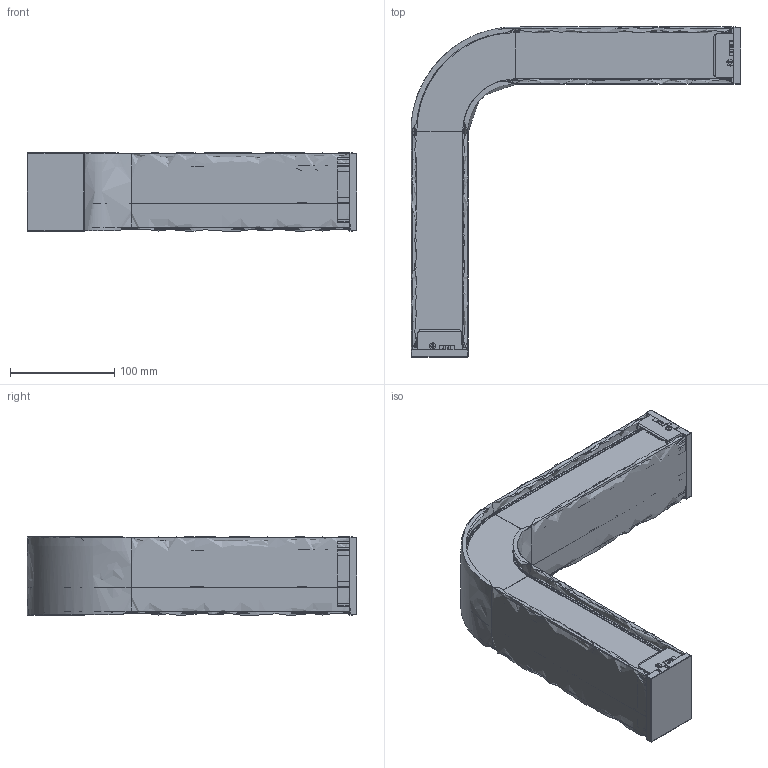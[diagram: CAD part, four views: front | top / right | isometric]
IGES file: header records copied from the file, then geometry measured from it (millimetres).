
Global section: file name: C:\Users\info\Desktop\CRIS\05. NEW PRODUCT\LUMINARIA KISS\3D para web\KISS A90 - IGS.igs; native system: Rhinoceros ( Feb 27 2019 ); preprocessor: Trout Lake IGES 012 Feb 27 2019; date: 260424.120439; units: millimetre
Bounding box: 316.74 x 316.74 x 75 mm (x, y, z)
Surface area: 431470.7 mm2 (no closed solid volume)
Topology: 0 solids, 0 shells, 1922 faces, 17364 edges, 17358 vertices
Faces by surface type: bspline 1922
